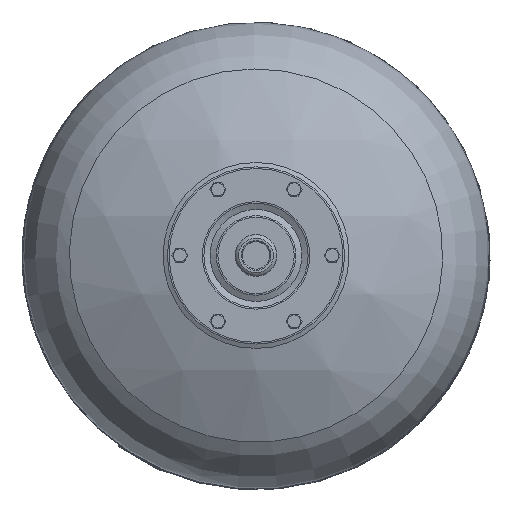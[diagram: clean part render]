
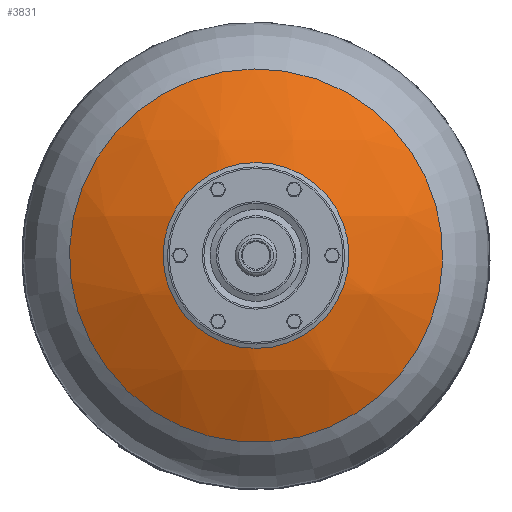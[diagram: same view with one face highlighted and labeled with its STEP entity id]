
A CAD part, top view. The second image highlights one B-rep face of the part: STEP entity #3831.
In plain terms, the highlighted spherical face has radius 528 mm.
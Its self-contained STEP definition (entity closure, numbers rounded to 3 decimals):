
#3831=ADVANCED_FACE('',(#8573,#8575),#8577,.T.);
#8573=FACE_BOUND('',#8574,.T.);
#8574=EDGE_LOOP('',(#10728,#10729));
#8575=FACE_BOUND('',#8576,.T.);
#8576=EDGE_LOOP('',(#10730,#10731));
#8577=SPHERICAL_SURFACE('',#8578,528.);
#8578=AXIS2_PLACEMENT_3D('',#8579,#8580,#8581);
#8579=CARTESIAN_POINT('',(9691.715,-3697.715,841.901));
#8580=DIRECTION('',(-0.8,-0.55,0.241));
#8581=DIRECTION('',(0.462,-0.82,-0.339));
#10728=ORIENTED_EDGE('',*,*,#11824,.F.);
#10729=ORIENTED_EDGE('',*,*,#11825,.F.);
#10730=ORIENTED_EDGE('',*,*,#10991,.T.);
#10731=ORIENTED_EDGE('',*,*,#10992,.T.);
#10991=EDGE_CURVE('',#12234,#12235,#12236,.T.);
#10992=EDGE_CURVE('',#12235,#12234,#12237,.T.);
#11824=EDGE_CURVE('',#13630,#13631,#13632,.T.);
#11825=EDGE_CURVE('',#13631,#13630,#13633,.T.);
#12234=VERTEX_POINT('',#16134);
#12235=VERTEX_POINT('',#16135);
#12236=TRIMMED_CURVE('',#16136,(PARAMETER_VALUE(3.704)),(PARAMETER_VALUE(
3.757)),.T.,.PARAMETER.);
#12237=TRIMMED_CURVE('',#16137,(PARAMETER_VALUE(3.757)),(PARAMETER_VALUE(
9.987)),.T.,.PARAMETER.);
#13630=VERTEX_POINT('',#21384);
#13631=VERTEX_POINT('',#21385);
#13632=CIRCLE('',#21386,264.);
#13633=CIRCLE('',#21390,264.);
#16134=CARTESIAN_POINT('',(9894.376,-3682.104,1329.209));
#16135=CARTESIAN_POINT('',(9899.293,-3682.093,1327.134));
#16136=CIRCLE('',#21448,100.07);
#16137=CIRCLE('',#21452,100.07);
#21384=CARTESIAN_POINT('',(9626.069,-3751.066,1363.08));
#21385=CARTESIAN_POINT('',(9790.605,-3529.783,1332.618));
#21386=AXIS2_PLACEMENT_3D('',#21387,#21388,#21389);
#21387=CARTESIAN_POINT('',(9867.298,-3771.031,1257.693));
#21388=DIRECTION('',(-0.384,0.16,-0.909));
#21389=DIRECTION('',(-0.914,0.076,0.399));
#21390=AXIS2_PLACEMENT_3D('',#21391,#21392,#21393);
#21391=CARTESIAN_POINT('',(9867.298,-3771.031,1257.693));
#21392=DIRECTION('',(-0.384,0.16,-0.909));
#21393=DIRECTION('',(-0.291,0.914,0.284));
#21448=AXIS2_PLACEMENT_3D('',#21449,#21450,#21451);
#21449=CARTESIAN_POINT('',(9890.786,-3780.838,1313.315));
#21450=DIRECTION('',(-0.384,0.16,-0.909));
#21451=DIRECTION('',(0.462,-0.82,-0.339));
#21452=AXIS2_PLACEMENT_3D('',#21453,#21454,#21455);
#21453=CARTESIAN_POINT('',(9890.786,-3780.838,1313.315));
#21454=DIRECTION('',(-0.384,0.16,-0.909));
#21455=DIRECTION('',(0.462,-0.82,-0.339));
